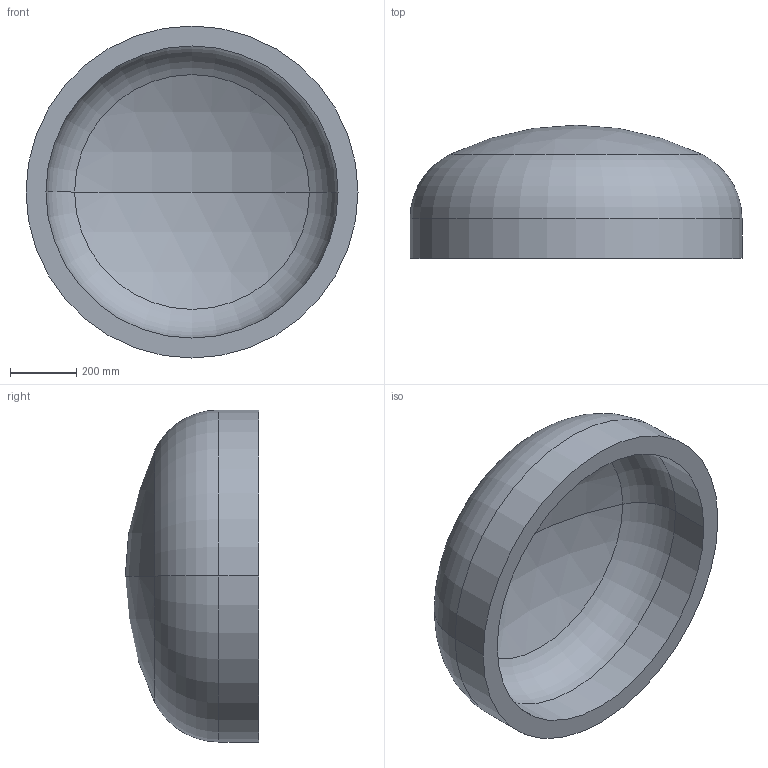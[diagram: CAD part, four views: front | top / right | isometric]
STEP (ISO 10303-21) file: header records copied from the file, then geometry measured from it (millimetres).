
FILE_DESCRIPTION (( 'STEP AP203' ), '1' );
FILE_NAME ('DIN 28013 Korbbogenform_-_Boden DIN 28013 - 1000 x 120 - I - s=60.step', '2016-07-01T08:51:59', ( '' ), ( '' ), 'SwSTEP 2.0', 'SolidWorks 2013', '' );
FILE_SCHEMA (( 'CONFIG_CONTROL_DESIGN' ));
Length unit declared in the file: millimetre
Products named in the file (1): DIN 28013 Korbbogenform_-_Boden DIN 28013 - 1000 x 120 - I - s=60
Bounding box: 1000 x 401.38 x 1000 mm (x, y, z)
Volume: 81803725.2 mm3; surface area: 2911515.9 mm2
Topology: 1 solids, 1 shells, 13 faces, 24 edges, 14 vertices
Faces by surface type: torus 4, cylinder 4, sphere 4, plane 1
Entity records: 407 total; most frequent: DIRECTION 72, CARTESIAN_POINT 52, ORIENTED_EDGE 48, AXIS2_PLACEMENT_3D 34, EDGE_CURVE 24, CIRCLE 20, EDGE_LOOP 14, VERTEX_POINT 14
